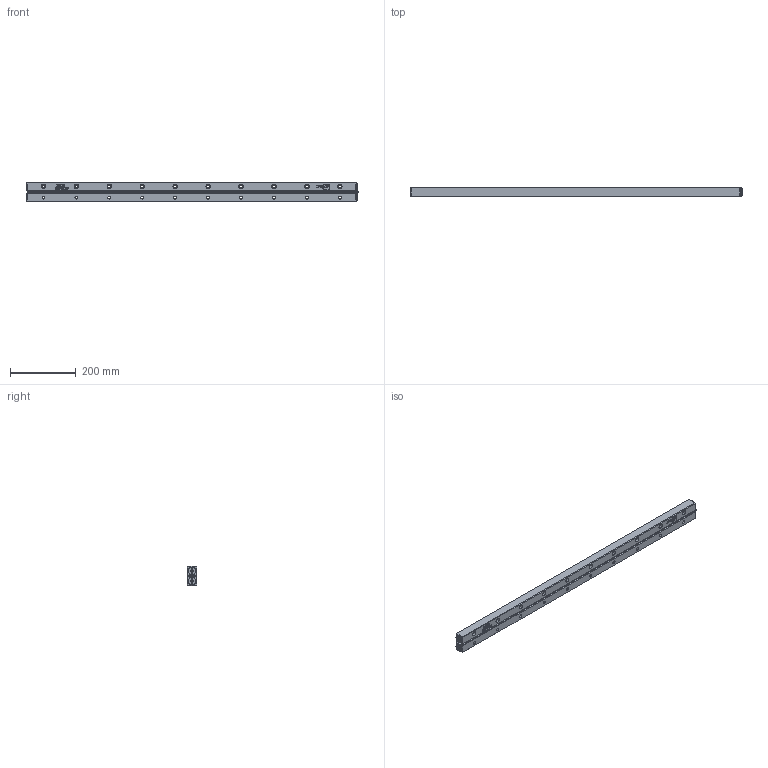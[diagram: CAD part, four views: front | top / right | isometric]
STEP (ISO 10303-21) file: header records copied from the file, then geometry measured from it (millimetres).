
FILE_DESCRIPTION (( 'STEP AP203' ), '1' );
FILE_NAME ('GRV12-1000.STEP', '2012-10-17T05:26:56', ( '123' ), ( '' ), 'SwSTEP 2.0', 'SolidWorks 2012', '' );
FILE_SCHEMA (( 'CONFIG_CONTROL_DESIGN' ));
Length unit declared in the file: millimetre
Products named in the file (1): GRV12-1000
Bounding box: 1008 x 28 x 58 mm (x, y, z)
Surface area: 270734.4 mm2 (no closed solid volume)
Topology: 0 solids, 54 shells, 323 faces, 1868 edges, 1609 vertices
Faces by surface type: plane 199, cylinder 90, torus 20, cone 12, bspline 2
Entity records: 21929 total; most frequent: CARTESIAN_POINT 7695, DIRECTION 2696, ORIENTED_EDGE 2485, EDGE_CURVE 1864, VERTEX_POINT 1609, LINE 1188, VECTOR 1188, AXIS2_PLACEMENT_3D 754
